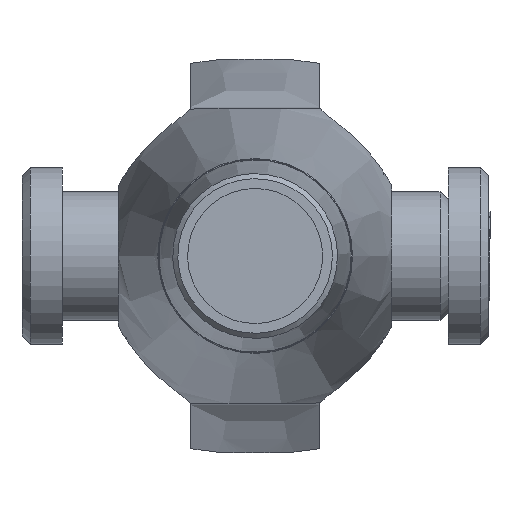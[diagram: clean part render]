
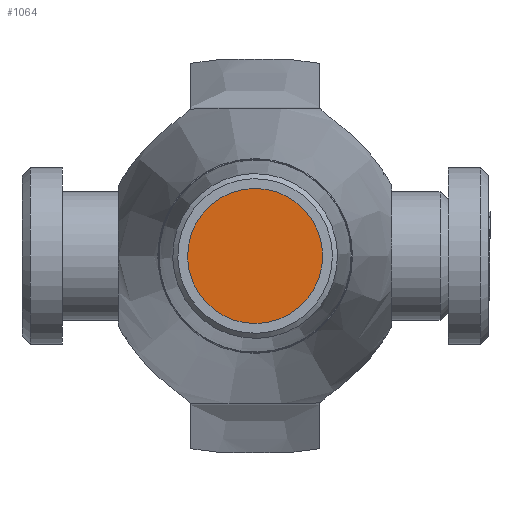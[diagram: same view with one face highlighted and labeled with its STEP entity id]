
A CAD part, left-side view. The second image highlights one B-rep face of the part: STEP entity #1064.
In plain terms, the highlighted planar face has unit normal (-1, 0, 0).
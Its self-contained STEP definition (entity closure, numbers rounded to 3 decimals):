
#87=PLANE('',#1173);
#126=FACE_OUTER_BOUND('',#191,.T.);
#191=EDGE_LOOP('',(#755,#756));
#366=CIRCLE('',#1171,4.2);
#367=CIRCLE('',#1172,4.2);
#444=VERTEX_POINT('',#1754);
#445=VERTEX_POINT('',#1756);
#561=EDGE_CURVE('',#445,#444,#366,.T.);
#562=EDGE_CURVE('',#444,#445,#367,.T.);
#755=ORIENTED_EDGE('',*,*,#561,.T.);
#756=ORIENTED_EDGE('',*,*,#562,.T.);
#1064=ADVANCED_FACE('',(#126),#87,.T.);
#1171=AXIS2_PLACEMENT_3D('',#1757,#1355,#1356);
#1172=AXIS2_PLACEMENT_3D('',#1758,#1357,#1358);
#1173=AXIS2_PLACEMENT_3D('',#1759,#1359,#1360);
#1355=DIRECTION('center_axis',(-1.,0.,0.));
#1356=DIRECTION('ref_axis',(0.,-0.027,-1.));
#1357=DIRECTION('center_axis',(-1.,0.,0.));
#1358=DIRECTION('ref_axis',(0.,-0.027,-1.));
#1359=DIRECTION('center_axis',(-1.,0.,0.));
#1360=DIRECTION('ref_axis',(0.,-0.027,-1.));
#1754=CARTESIAN_POINT('',(-94.,-4.198,0.115));
#1756=CARTESIAN_POINT('',(-94.,4.198,-0.115));
#1757=CARTESIAN_POINT('Origin',(-94.,0.,
0.));
#1758=CARTESIAN_POINT('Origin',(-94.,0.,
0.));
#1759=CARTESIAN_POINT('Origin',(-94.,0.,
0.));
